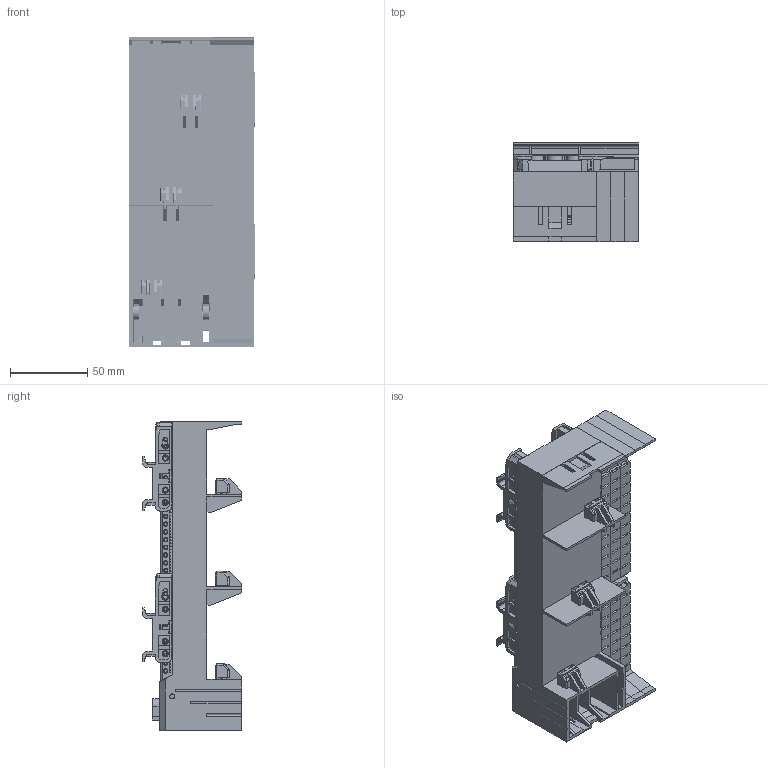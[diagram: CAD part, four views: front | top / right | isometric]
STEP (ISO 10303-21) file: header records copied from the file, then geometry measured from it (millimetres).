
FILE_DESCRIPTION (( 'STEP AP203' ), '1' );
FILE_NAME ('55335.STEP', '2021-08-18T07:09:05', ( '' ), ( '' ), 'SwSTEP 2.0', 'SolidWorks 2017', '' );
FILE_SCHEMA (( 'CONFIG_CONTROL_DESIGN' ));
Products named in the file (2): 55335
Bounding box: 81.05 x 64.3 x 200.4 mm (x, y, z)
Volume: 411975.3 mm3; surface area: 181136.1 mm2
Topology: 14 solids, 21 shells, 3930 faces, 10996 edges, 7295 vertices
Faces by surface type: plane 2822, cylinder 763, cone 181, bspline 161, torus 3
Full cylindrical faces by diameter (mm): 1.988 x130, 2.6 x14, 2.982 x14, 3.479 x8, 4.2 x2, 5 x36, 5.169 x2, 5.964 x11
Entity records: 182889 total; most frequent: CARTESIAN_POINT 87642, ORIENTED_EDGE 20776, DIRECTION 17273, EDGE_CURVE 10388, VECTOR 7351, LINE 7351, VERTEX_POINT 7076, AXIS2_PLACEMENT_3D 4961
